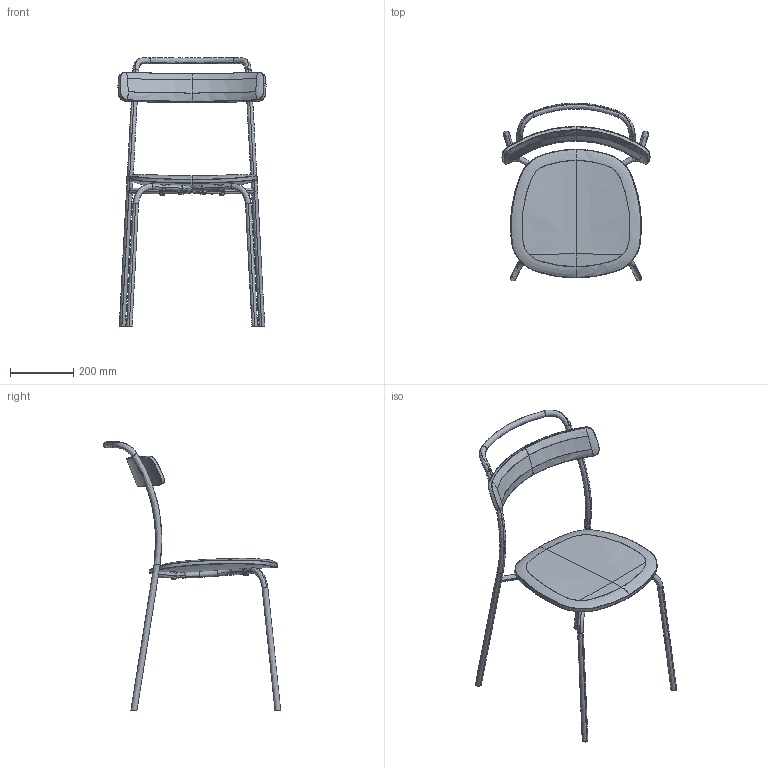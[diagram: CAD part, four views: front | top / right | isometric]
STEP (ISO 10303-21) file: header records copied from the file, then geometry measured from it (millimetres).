
FILE_DESCRIPTION(/* description */ (''),/* implementation_level */ '2;1');
FILE_NAME(/* name */ 'MC16_F~1',/* time_stamp */ '2021-04-14T13:34:48+02:00',/* author */ (''),/* organization */ (''),/* preprocessor_version */ 'ST-DEVELOPER v16.5',/* originating_system */ '',/* authorisation */ '');
FILE_SCHEMA (('AUTOMOTIVE_DESIGN'));
Products named in the file (1): Document
Bounding box: 466.37 x 558.93 x 846.56 mm (x, y, z)
Surface area: 829484.1 mm2 (no closed solid volume)
Topology: 0 solids, 294 shells, 294 faces, 1302 edges, 1292 vertices
Faces by surface type: bspline 294
Entity records: 232146 total; most frequent: CARTESIAN_POINT 220376, B_SPLINE_CURVE_WITH_KNOTS 2074, ORIENTED_EDGE 1292, PCURVE 1292, DEFINITIONAL_REPRESENTATION 1292, SURFACE_CURVE 1292, EDGE_CURVE 1292, VERTEX_POINT 1292
